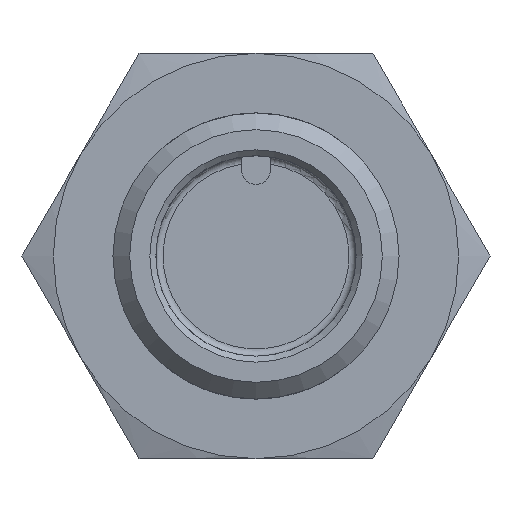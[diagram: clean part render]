
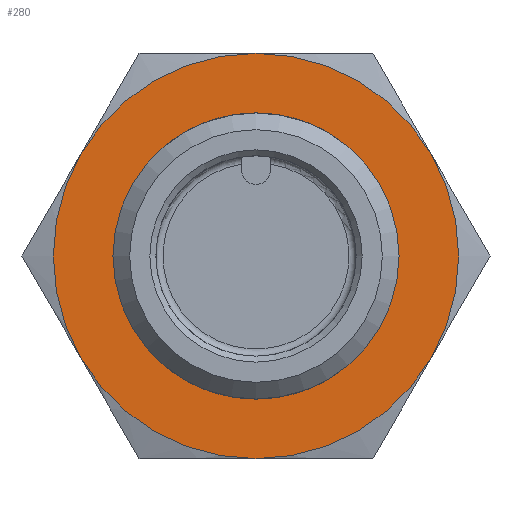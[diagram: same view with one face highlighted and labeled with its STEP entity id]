
A CAD part, left-side view. The second image highlights one B-rep face of the part: STEP entity #280.
In plain terms, the highlighted planar face has unit normal (-1, 0, 0) as drawn and (1, 0, 0) by its records, which use the part's own axes.
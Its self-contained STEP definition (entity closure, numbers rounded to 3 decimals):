
#280 = ADVANCED_FACE( '', ( #472, #473 ), #474, .T. );
#472 = FACE_OUTER_BOUND( '', #665, .T. );
#473 = FACE_BOUND( '', #666, .T. );
#474 = PLANE( '', #667 );
#665 = EDGE_LOOP( '', ( #1154, #1155, #1156, #1157, #1158, #1159 ) );
#666 = EDGE_LOOP( '', ( #1160 ) );
#667 = AXIS2_PLACEMENT_3D( '', #1161, #1162, #1163 );
#1154 = ORIENTED_EDGE( '', *, *, #1297, .T. );
#1155 = ORIENTED_EDGE( '', *, *, #1298, .T. );
#1156 = ORIENTED_EDGE( '', *, *, #1286, .T. );
#1157 = ORIENTED_EDGE( '', *, *, #1284, .T. );
#1158 = ORIENTED_EDGE( '', *, *, #1263, .T. );
#1159 = ORIENTED_EDGE( '', *, *, #1296, .T. );
#1160 = ORIENTED_EDGE( '', *, *, #1301, .F. );
#1161 = CARTESIAN_POINT( '', ( 4., 6., 0. ) );
#1162 = DIRECTION( '', ( 1., 0., 0. ) );
#1163 = DIRECTION( '', ( 0., 0., -1. ) );
#1263 = EDGE_CURVE( '', #1459, #1470, #1472, .T. );
#1284 = EDGE_CURVE( '', #1507, #1459, #1509, .T. );
#1286 = EDGE_CURVE( '', #1474, #1507, #1511, .T. );
#1296 = EDGE_CURVE( '', #1470, #1486, #1523, .T. );
#1297 = EDGE_CURVE( '', #1486, #1501, #1524, .T. );
#1298 = EDGE_CURVE( '', #1501, #1474, #1525, .T. );
#1301 = EDGE_CURVE( '', #1530, #1530, #1531, .T. );
#1459 = VERTEX_POINT( '', #1847 );
#1470 = VERTEX_POINT( '', #1872 );
#1472 = CIRCLE( '', #1877, 8.5 );
#1474 = VERTEX_POINT( '', #1879 );
#1486 = VERTEX_POINT( '', #1905 );
#1501 = VERTEX_POINT( '', #1947 );
#1507 = VERTEX_POINT( '', #1965 );
#1509 = CIRCLE( '', #1972, 8.5 );
#1511 = CIRCLE( '', #1977, 8.5 );
#1523 = CIRCLE( '', #1997, 8.5 );
#1524 = CIRCLE( '', #1998, 8.5 );
#1525 = CIRCLE( '', #1999, 8.5 );
#1530 = VERTEX_POINT( '', #2004 );
#1531 = CIRCLE( '', #2005, 6. );
#1847 = CARTESIAN_POINT( '', ( 4., -7.361, 4.25 ) );
#1872 = CARTESIAN_POINT( '', ( 4., -7.361, -4.25 ) );
#1877 = AXIS2_PLACEMENT_3D( '', #2169, #2170, #2171 );
#1879 = CARTESIAN_POINT( '', ( 4., 7.361, 4.25 ) );
#1905 = CARTESIAN_POINT( '', ( 4., 0., -8.5 ) );
#1947 = CARTESIAN_POINT( '', ( 4., 7.361, -4.25 ) );
#1965 = CARTESIAN_POINT( '', ( 4., 0., 8.5 ) );
#1972 = AXIS2_PLACEMENT_3D( '', #2176, #2177, #2178 );
#1977 = AXIS2_PLACEMENT_3D( '', #2179, #2180, #2181 );
#1997 = AXIS2_PLACEMENT_3D( '', #2203, #2204, #2205 );
#1998 = AXIS2_PLACEMENT_3D( '', #2206, #2207, #2208 );
#1999 = AXIS2_PLACEMENT_3D( '', #2209, #2210, #2211 );
#2004 = CARTESIAN_POINT( '', ( 4., 0., -6. ) );
#2005 = AXIS2_PLACEMENT_3D( '', #2218, #2219, #2220 );
#2169 = CARTESIAN_POINT( '', ( 4., 0., 0. ) );
#2170 = DIRECTION( '', ( 1., 0., 0. ) );
#2171 = DIRECTION( '', ( 0., 0., -1. ) );
#2176 = CARTESIAN_POINT( '', ( 4., 0., 0. ) );
#2177 = DIRECTION( '', ( 1., 0., 0. ) );
#2178 = DIRECTION( '', ( 0., 0., -1. ) );
#2179 = CARTESIAN_POINT( '', ( 4., 0., 0. ) );
#2180 = DIRECTION( '', ( 1., 0., 0. ) );
#2181 = DIRECTION( '', ( 0., 0., -1. ) );
#2203 = CARTESIAN_POINT( '', ( 4., 0., 0. ) );
#2204 = DIRECTION( '', ( 1., 0., 0. ) );
#2205 = DIRECTION( '', ( 0., 0., -1. ) );
#2206 = CARTESIAN_POINT( '', ( 4., 0., 0. ) );
#2207 = DIRECTION( '', ( 1., 0., 0. ) );
#2208 = DIRECTION( '', ( 0., 0., -1. ) );
#2209 = CARTESIAN_POINT( '', ( 4., 0., 0. ) );
#2210 = DIRECTION( '', ( 1., 0., 0. ) );
#2211 = DIRECTION( '', ( 0., 0., -1. ) );
#2218 = CARTESIAN_POINT( '', ( 4., 0., 0. ) );
#2219 = DIRECTION( '', ( 1., 0., 0. ) );
#2220 = DIRECTION( '', ( 0., 0., -1. ) );
